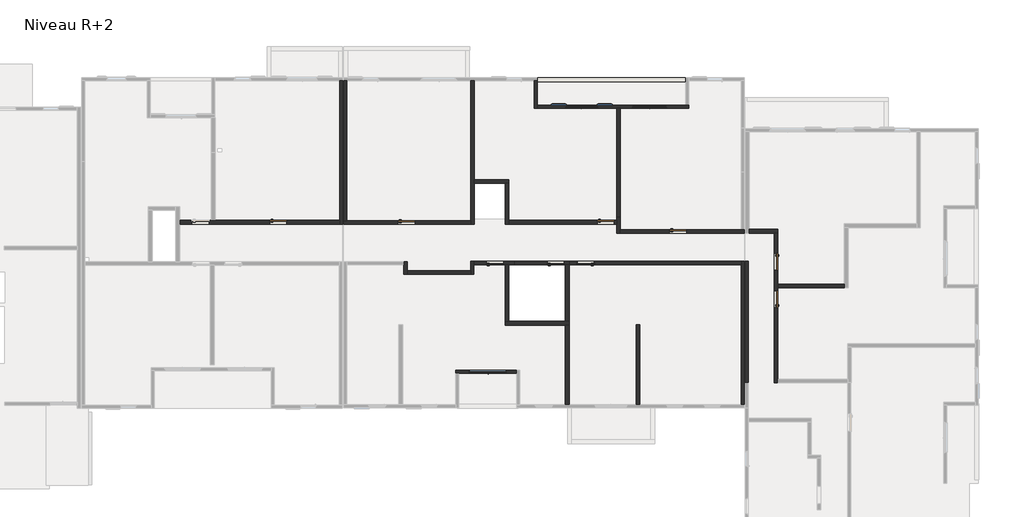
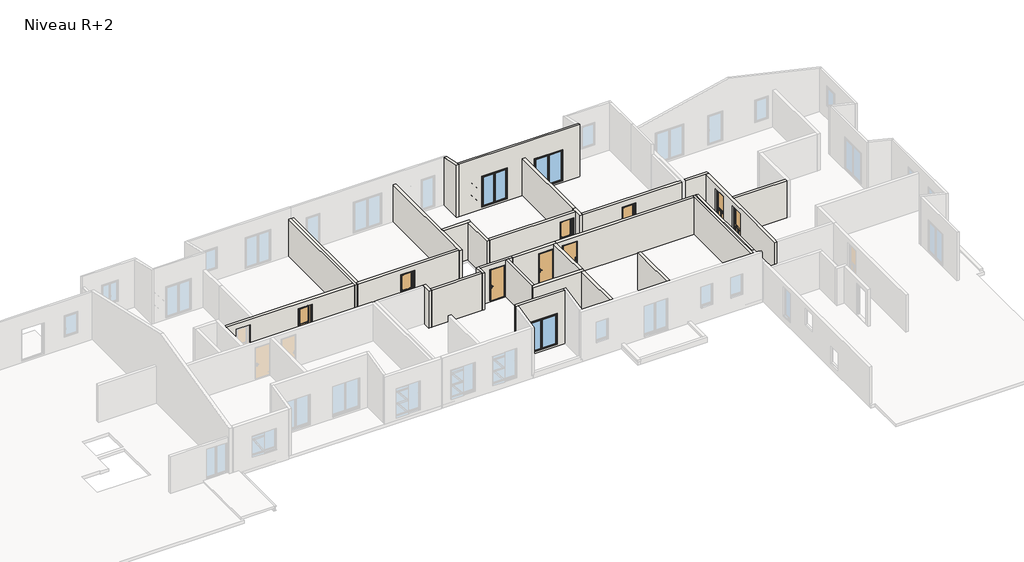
# One storey, part 5 of 7: 31 walls, 9 doors, 3 windows.
"""IFC4 building model written with IfcOpenShell, lengths in millimetres."""

from ifc_helpers import new_model, si_unit, frame, origin, place, context, project, spatial, polyline, outline, extrude, faceted_brep, transform, mapped, element, save
from components import door_88e42b76, door_d45fdbb8, door_280daffa, window_1_60m_x_2_15m_4a639791, window_1_80m_x_2_15m_7d3a4370, window_2_00m_x_2_15m_5decbdad

model = new_model("IFC4")

# Units and contexts
model_context = context("Model", 3, world=origin())
ifc_project = project(units=[si_unit("LENGTHUNIT", "METRE", prefix="MILLI")], contexts=[model_context])

# Site, building, storey
site = spatial("IfcSite", under=ifc_project)
building = spatial("IfcBuilding", under=site)
storey = spatial("IfcBuildingStorey", under=building, Name="Niveau R+2", Elevation=6120.0)

# Doors
placement = place(None, origin())
door_shape = door_88e42b76(model_context)
element("IfcDoor", 1, ObjectType="Entrée (avec angle d'ouverture) : PP Avec moulures (0.90 m x 2.15 m)", at=placement, inside=storey, context=model_context, shape_type="MappedRepresentation", body=[
    mapped(door_shape, transform((34385.1786351, 24372.4965623, 6120.0), x_axis=(1.0, 0.0, 0.0), y_axis=(0.0, 1.0, 0.0), z_axis=(0.0, 0.0, 1.0))),
])
element("IfcDoor", 2, ObjectType="Entrée (avec angle d'ouverture) : PP Avec moulures (0.90 m x 2.15 m)", at=placement, inside=storey, context=model_context, shape_type="MappedRepresentation", body=[
    mapped(door_shape, transform((51897.3928747, 24372.4952381, 6120.0), x_axis=(1.0, 0.0, 0.0), y_axis=(0.0, 1.0, 0.0), z_axis=(0.0, 0.0, 1.0))),
])
door_2_shape = door_d45fdbb8(model_context)
element("IfcDoor", 3, ObjectType="Entrée (avec angle d'ouverture) : PP Avec moulures (0.90 m x 2.15 m)", at=placement, inside=storey, context=model_context, shape_type="MappedRepresentation", body=[
    mapped(door_2_shape, transform((49225.0121044, 22187.4949823, 6120.0), x_axis=(1.0, 0.0, 0.0), y_axis=(0.0, 1.0, 0.0), z_axis=(0.0, 0.0, 1.0))),
])
element("IfcDoor", 4, ObjectType="Entrée (avec angle d'ouverture) : PP Avec moulures (0.90 m x 2.15 m)", at=placement, inside=storey, context=model_context, shape_type="MappedRepresentation", body=[
    mapped(door_2_shape, transform((60989.2327219, 20265.8620351, 6120.0), x_axis=(0.0, 1.0, 0.0), y_axis=(-1.0, 0.0, 0.0), z_axis=(0.0, 0.0, 1.0))),
])
element("IfcDoor", 5, ObjectType="Entrée (avec angle d'ouverture) : PP Avec moulures (0.90 m x 2.15 m)", at=placement, inside=storey, context=model_context, shape_type="MappedRepresentation", body=[
    mapped(door_2_shape, transform((45968.8671522, 22187.4951106, 6120.0), x_axis=(1.0, 0.0, 0.0), y_axis=(0.0, 1.0, 0.0), z_axis=(0.0, 0.0, 1.0))),
])
door_3_shape = door_280daffa(model_context)
element("IfcDoor", 6, ObjectType="Entrée (avec angle d'ouverture) : PP Avec moulures (0.90 m x 2.15 m)", at=placement, inside=storey, context=model_context, shape_type="MappedRepresentation", body=[
    mapped(door_3_shape, transform((41244.7127506, 24362.4952381, 6120.0), x_axis=(1.0, 0.0, 0.0), y_axis=(0.0, 1.0, 0.0), z_axis=(0.0, 0.0, 1.0))),
])
element("IfcDoor", 7, ObjectType="Entrée (avec angle d'ouverture) : PP Avec moulures (0.90 m x 2.15 m)", at=placement, inside=storey, context=model_context, shape_type="MappedRepresentation", body=[
    mapped(door_3_shape, transform((55757.3928747, 23877.4942338, 6120.0), x_axis=(1.0, 0.0, 0.0), y_axis=(0.0, 1.0, 0.0), z_axis=(0.0, 0.0, 1.0))),
])
element("IfcDoor", 8, ObjectType="Entrée (avec angle d'ouverture) : PP Avec moulures (0.90 m x 2.15 m)", at=placement, inside=storey, context=model_context, shape_type="MappedRepresentation", body=[
    mapped(door_3_shape, transform((60989.2327219, 22254.6274913, 6120.0), x_axis=(0.0, -1.0, 0.0), y_axis=(1.0, 0.0, 0.0), z_axis=(0.0, 0.0, 1.0))),
])
element("IfcDoor", 9, ObjectType="Entrée (avec angle d'ouverture) : PP Avec moulures (0.90 m x 2.15 m)", at=placement, inside=storey, context=model_context, shape_type="MappedRepresentation", body=[
    mapped(door_3_shape, transform((50805.0121044, 22187.4949823, 6120.0), x_axis=(-1.0, 0.0, 0.0), y_axis=(0.0, -1.0, 0.0), z_axis=(0.0, 0.0, 1.0))),
])

# Walls
element("IfcWall", 10, ObjectType="Ext. Voile BA 16 + Isolant 120", at=placement, inside=storey, context=model_context, shape_type="Brep", body=[
    faceted_brep([(48060.3941376, 31927.4960094, 9407.9189243), (48060.3941376, 31927.4960094, 6030.0), (48060.3941376, 30468.4145164, 6030.0), (48060.3941376, 30468.4145164, 9744.7744293), (48220.3941376, 31927.4960094, 6030.0), (48220.3941376, 31927.4960094, 9407.9189243), (48220.3941376, 30628.4145164, 9707.8355187), (48220.3941376, 30468.4145164, 9744.7744293), (48220.3941376, 30468.4145164, 6030.0), (48220.3941376, 30628.4145164, 6030.0), (48220.3941376, 31887.4960094, 6030.0), (48140.3941376, 31927.4960094, 6030.0)], [[[0, 1, 2, 3]], [[4, 5, 6, 7, 8, 9, 10]], [[2, 1, 11, 4, 10, 9, 8]], [[0, 3, 7, 6, 5]], [[0, 5, 4, 11, 1]], [[3, 2, 8, 7]]]),
])
element("IfcWall", 11, ObjectType="Ext. Voile BA 16 + Isolant 120", at=placement, inside=storey, context=model_context, shape_type="Brep", body=[
    faceted_brep([(48220.3941376, 30468.4145164, 6030.0), (52467.3928747, 30468.4145164, 6030.0), (52667.3928747, 30468.4145164, 6030.0), (56314.3903552, 30468.4145164, 6030.0), (56314.3903552, 30468.4145164, 9744.7744293), (48220.3941376, 30468.4145164, 9744.7744293), (51452.3928747, 30468.4145164, 6155.0), (49752.3928747, 30468.4145164, 6155.0), (49752.3928747, 30468.4145164, 8355.0), (51452.3928747, 30468.4145164, 8355.0), (55167.3928747, 30468.4145164, 6155.0), (53267.3928747, 30468.4145164, 6155.0), (53267.3928747, 30468.4145164, 8355.0), (55167.3928747, 30468.4145164, 8355.0), (48220.3941376, 30628.4145164, 6030.0), (48220.3941376, 30628.4145164, 9707.8355187), (56154.3903552, 30628.4145164, 9707.8355187), (56314.3903552, 30628.4145164, 9707.8355187), (56314.3903552, 30628.4145164, 6030.0), (56154.3903552, 30628.4145164, 6030.0), (51402.3928747, 30628.4145164, 6146.5916612), (51402.3928747, 30628.4145164, 8305.0), (49802.3928747, 30628.4145164, 8305.0), (49802.3928747, 30628.4145164, 6146.5916612), (53317.3928747, 30628.4145164, 8305.0), (53317.3928747, 30628.4145164, 6146.5916612), (55117.3928747, 30628.4145164, 6146.5916612), (55117.3928747, 30628.4145164, 8305.0), (51402.3928747, 30548.4145164, 6155.0), (51402.3928747, 30568.4145164, 6155.0), (51402.3928747, 30568.4145164, 8305.0), (49802.3928747, 30568.4145164, 8305.0), (49802.3928747, 30568.4145164, 6155.0), (49802.3928747, 30548.4145164, 6155.0), (49792.3928747, 30568.4145164, 6155.0), (49792.3928747, 30518.4145164, 6155.0), (49752.3928747, 30518.4145164, 6155.0), (51452.3928747, 30518.4145164, 6155.0), (51412.3928747, 30518.4145164, 6155.0), (51412.3928747, 30568.4145164, 6155.0), (51452.3928747, 30518.4145164, 8355.0), (49752.3928747, 30518.4145164, 8355.0), (49792.3928747, 30518.4145164, 8315.0), (51412.3928747, 30518.4145164, 8315.0), (51412.3928747, 30568.4145164, 8315.0), (49792.3928747, 30568.4145164, 8315.0), (53317.3928747, 30548.4145164, 6155.0), (53317.3928747, 30568.4145164, 8305.0), (53317.3928747, 30568.4145164, 6155.0), (55117.3928747, 30548.4145164, 6155.0), (55117.3928747, 30568.4145164, 6155.0), (55117.3928747, 30568.4145164, 8305.0), (53307.3928747, 30568.4145164, 6155.0), (53307.3928747, 30518.4145164, 6155.0), (53267.3928747, 30518.4145164, 6155.0), (55167.3928747, 30518.4145164, 6155.0), (55127.3928747, 30518.4145164, 6155.0), (55127.3928747, 30568.4145164, 6155.0), (53267.3928747, 30518.4145164, 8355.0), (53307.3928747, 30518.4145164, 8315.0), (55127.3928747, 30518.4145164, 8315.0), (55167.3928747, 30518.4145164, 8355.0), (53307.3928747, 30568.4145164, 8315.0), (55127.3928747, 30568.4145164, 8315.0)], [[[0, 1, 2, 3, 4, 5], [6, 7, 8, 9], [10, 11, 12, 13]], [[14, 15, 16, 17, 18, 19], [20, 21, 22, 23], [24, 25, 26, 27]], [[3, 2, 1, 0, 14, 19, 18]], [[4, 3, 18, 17]], [[28, 29, 30, 21, 20]], [[23, 22, 31, 32, 33]], [[28, 20, 23, 33]], [[21, 30, 31, 22]], [[33, 32, 34, 35, 36, 7, 6, 37, 38, 39, 29, 28]], [[6, 9, 40, 37]], [[37, 40, 41, 36, 35, 42, 43, 38]], [[38, 43, 44, 39]], [[39, 44, 45, 34, 32, 31, 30, 29]], [[9, 8, 41, 40]], [[42, 45, 44, 43]], [[41, 8, 7, 36]], [[35, 34, 45, 42]], [[46, 25, 24, 47, 48]], [[26, 49, 50, 51, 27]], [[46, 49, 26, 25]], [[24, 27, 51, 47]], [[49, 46, 48, 52, 53, 54, 11, 10, 55, 56, 57, 50]], [[11, 54, 58, 12]], [[54, 53, 59, 60, 56, 55, 61, 58]], [[53, 52, 62, 59]], [[52, 48, 47, 51, 50, 57, 63, 62]], [[12, 58, 61, 13]], [[60, 59, 62, 63]], [[61, 55, 10, 13]], [[56, 60, 63, 57]], [[5, 4, 17, 16, 15]], [[0, 5, 15, 14]]]),
])
element("IfcWall", 12, ObjectType="Ext. Voile BA 16 + Isolant 120", at=placement, inside=storey, context=model_context, shape_type="Brep", body=[
    faceted_brep([(47132.2384282, 16448.2809457, 6030.0), (43855.5620379, 16448.2809457, 6030.0), (43855.5620379, 16448.2809457, 9830.5096694), (47132.2384282, 16448.2809457, 9830.5096694), (44573.900233, 16448.2809457, 8305.0), (44573.900233, 16448.2809457, 6146.5916612), (46573.900233, 16448.2809457, 6146.5916612), (46573.900233, 16448.2809457, 8305.0), (47132.2384282, 16288.2809457, 6030.0), (47132.2384282, 16288.2809457, 9793.5707588), (44015.5620379, 16288.2809457, 9793.5707588), (43855.5620379, 16288.2809457, 9793.5707588), (43855.5620379, 16288.2809457, 6030.0), (44015.5620379, 16288.2809457, 6030.0), (46623.900233, 16288.2809457, 6155.0), (44523.900233, 16288.2809457, 6155.0), (44523.900233, 16288.2809457, 8355.0), (46623.900233, 16288.2809457, 8355.0), (44573.900233, 16368.2809457, 6155.0), (44573.900233, 16388.2809457, 8305.0), (44573.900233, 16388.2809457, 6155.0), (46573.900233, 16368.2809457, 6155.0), (46573.900233, 16388.2809457, 6155.0), (46573.900233, 16388.2809457, 8305.0), (44563.900233, 16388.2809457, 6155.0), (44563.900233, 16338.2809457, 6155.0), (44523.900233, 16338.2809457, 6155.0), (46623.900233, 16338.2809457, 6155.0), (46583.900233, 16338.2809457, 6155.0), (46583.900233, 16388.2809457, 6155.0), (44523.900233, 16338.2809457, 8355.0), (44563.900233, 16338.2809457, 8315.0), (46583.900233, 16338.2809457, 8315.0), (46623.900233, 16338.2809457, 8355.0), (44563.900233, 16388.2809457, 8315.0), (46583.900233, 16388.2809457, 8315.0)], [[[0, 1, 2, 3], [4, 5, 6, 7]], [[8, 9, 10, 11, 12, 13], [14, 15, 16, 17]], [[1, 0, 8, 13, 12]], [[2, 1, 12, 11]], [[0, 3, 9, 8]], [[18, 5, 4, 19, 20]], [[6, 21, 22, 23, 7]], [[18, 21, 6, 5]], [[4, 7, 23, 19]], [[21, 18, 20, 24, 25, 26, 15, 14, 27, 28, 29, 22]], [[15, 26, 30, 16]], [[26, 25, 31, 32, 28, 27, 33, 30]], [[25, 24, 34, 31]], [[24, 20, 19, 23, 22, 29, 35, 34]], [[16, 30, 33, 17]], [[32, 31, 34, 35]], [[33, 27, 14, 17]], [[28, 32, 35, 29]], [[3, 2, 11, 10, 9]]]),
])
element("IfcWall", 13, ObjectType="Ext. Voile BA 20", at=placement, inside=storey, context=model_context, shape_type="Brep", body=[
    faceted_brep([(48140.3941376, 31887.4960094, 5830.0), (56234.3903552, 31887.4960094, 5830.0), (56234.3903552, 31887.4960094, 6030.0), (56154.3903552, 31887.4960094, 6030.0), (56154.3903552, 31887.4960094, 6180.0), (48220.3941376, 31887.4960094, 6180.0), (48220.3941376, 31887.4960094, 6030.0), (48140.3941376, 31887.4960094, 6030.0), (48140.3941376, 32087.4960094, 5830.0), (48140.3941376, 32087.4960094, 6030.0), (48220.3941376, 32087.4960094, 6030.0), (48220.3941376, 32087.4960094, 6180.0), (56154.3903552, 32087.4960094, 6180.0), (56154.3903552, 32087.4960094, 6030.0), (56234.3903552, 32087.4960094, 6030.0), (56234.3903552, 32087.4960094, 5830.0), (48140.3941376, 31927.4960094, 5830.0), (56234.3903552, 31927.496363, 5830.0), (56234.3903552, 31927.496363, 6030.0), (48140.3941376, 31927.4960094, 6030.0), (48220.3941376, 31927.4960094, 6030.0)], [[[0, 1, 2, 3, 4, 5, 6, 7]], [[8, 9, 10, 11, 12, 13, 14, 15]], [[1, 0, 16, 8, 15, 17]], [[5, 4, 12, 11]], [[2, 1, 17, 15, 14, 18]], [[13, 3, 2, 18, 14]], [[4, 3, 13, 12]], [[0, 7, 19, 9, 8, 16]], [[6, 20, 10, 9, 19, 7]], [[6, 5, 11, 10, 20]]]),
])
element("IfcWall", 14, ObjectType="Voile BA 16", at=placement, inside=storey, context=model_context, shape_type="Brep", body=[
    faceted_brep([(37669.4832806, 31947.4972516, 8650.0), (37669.4832806, 31947.4972516, 6030.0), (37669.4832806, 24472.4965623, 6030.0), (37669.4832806, 24272.4965623, 6030.0), (37669.4832806, 24272.4965623, 8650.0), (37669.4832806, 24472.4965623, 8650.0), (37829.4832806, 31947.4972516, 6030.0), (37829.4832806, 31947.4972516, 8650.0), (37829.4832806, 24272.4965623, 8650.0), (37829.4832806, 24272.4965623, 6030.0)], [[[0, 1, 2, 3, 4, 5]], [[6, 7, 8, 9]], [[3, 2, 1, 6, 9]], [[0, 5, 4, 8, 7]], [[4, 3, 9, 8]], [[0, 7, 6, 1]]]),
])
element("IfcWall", 15, ObjectType="Voile BA 16", at=placement, inside=storey, context=model_context, shape_type="SweptSolid", body=[
    extrude(outline(polyline([(59512.9059955, 22280.4427829), (59512.9059955, 15804.7371469), (59352.9059955, 15804.7371469), (59352.9059955, 22280.4427829), (59512.9059955, 22280.4427829)])), frame((0.0, 0.0, 6030.0), z_axis=(0.0, 0.0, 1.0), x_axis=(1.0, 0.0, 0.0)), (0.0, 0.0, 1.0), 2620.0),
])
element("IfcWall", 16, ObjectType="Voile BA 16", at=placement, inside=storey, context=model_context, shape_type="Brep", body=[
    faceted_brep([(59132.9632272, 22277.4949823, 6030.0), (59132.9632272, 22097.4949823, 6030.0), (59132.9632272, 14617.838074, 6030.0), (59132.9632272, 14617.838074, 8650.0), (59132.9632272, 22097.4949823, 8650.0), (59132.9632272, 22277.4949823, 8650.0), (59292.9632272, 22277.4949823, 6030.0), (59292.9632272, 22277.4949823, 8650.0), (59292.9632272, 14617.838074, 8650.0), (59292.9632272, 14617.838074, 6030.0)], [[[0, 1, 2, 3, 4, 5]], [[6, 7, 8, 9]], [[2, 1, 0, 6, 9]], [[5, 4, 3, 8, 7]], [[3, 2, 9, 8]], [[0, 5, 7, 6]]]),
])
element("IfcWall", 17, ObjectType="Voile BA 16", at=placement, inside=storey, context=model_context, shape_type="Brep", body=[
    faceted_brep([(37868.7313075, 31927.4960094, 8650.0), (37868.7313075, 31927.4960094, 6030.0), (37868.7313075, 24452.4952381, 6030.0), (37868.7313075, 24452.4952381, 8650.0), (38028.7313075, 31927.4960094, 6030.0), (38028.7313075, 31927.4960094, 8650.0), (38028.7313075, 24452.4952381, 8650.0), (38028.7313075, 24452.4952381, 6030.0), (37888.6832806, 31927.4960094, 6030.0)], [[[0, 1, 2, 3]], [[4, 5, 6, 7]], [[2, 1, 8, 4, 7]], [[0, 3, 6, 5]], [[3, 2, 7, 6]], [[0, 5, 4, 8, 1]]]),
])
element("IfcWall", 18, ObjectType="Voile BA 18", at=placement, inside=storey, context=model_context, shape_type="Brep", body=[
    faceted_brep([(46985.0121044, 22097.4949823, 6030.0), (49725.0121044, 22097.4949823, 6030.0), (49925.0121044, 22097.4949823, 6030.0), (49925.0121044, 22097.4949823, 8650.0), (49725.0121044, 22097.4949823, 8650.0), (46985.0121044, 22097.4949823, 8650.0), (48755.0121044, 22097.4949823, 6120.0), (48725.0121044, 22097.4949823, 6120.0), (48725.0121044, 22097.4949823, 8310.0), (49705.0121044, 22097.4949823, 8310.0), (49705.0121044, 22097.4949823, 6120.0), (49675.0121044, 22097.4949823, 6120.0), (49925.0121044, 22277.4949823, 6030.0), (46985.0121044, 22277.4949823, 6030.0), (46985.0121044, 22277.4949823, 8650.0), (49925.0121044, 22277.4949823, 8650.0), (49675.0121044, 22277.4949823, 8280.0), (48755.0121044, 22277.4949823, 8280.0), (48755.0121044, 22277.4949823, 6120.0), (49675.0121044, 22277.4949823, 6120.0), (49675.0121044, 22197.4949823, 8280.0), (48755.0121044, 22197.4949823, 8280.0), (48755.0121044, 22197.4949823, 6120.0), (48740.0121044, 22197.4949823, 6120.0), (48740.0121044, 22154.4949823, 6120.0), (48725.0121044, 22154.4949823, 6120.0), (49705.0121044, 22154.4949823, 6120.0), (49690.0121044, 22154.4949823, 6120.0), (49690.0121044, 22197.4949823, 6120.0), (49675.0121044, 22197.4949823, 6120.0), (48740.0121044, 22154.4949823, 8295.0), (49690.0121044, 22154.4949823, 8295.0), (49705.0121044, 22154.4949823, 8310.0), (48725.0121044, 22154.4949823, 8310.0), (48740.0121044, 22197.4949823, 8295.0), (49690.0121044, 22197.4949823, 8295.0)], [[[0, 1, 2, 3, 4, 5], [6, 7, 8, 9, 10, 11]], [[12, 13, 14, 15], [16, 17, 18, 19]], [[2, 1, 0, 13, 12]], [[5, 4, 3, 15, 14]], [[0, 5, 14, 13]], [[3, 2, 12, 15]], [[20, 21, 17, 16]], [[22, 23, 24, 25, 7, 6, 11, 10, 26, 27, 28, 29, 19, 18]], [[29, 20, 16, 19]], [[21, 22, 18, 17]], [[25, 24, 30, 31, 27, 26, 32, 33]], [[7, 25, 33, 8]], [[33, 32, 9, 8]], [[26, 10, 9, 32]], [[24, 23, 34, 30]], [[21, 20, 29, 28, 35, 34, 23, 22]], [[31, 30, 34, 35]], [[28, 27, 31, 35]]]),
])
element("IfcWall", 19, ObjectType="Voile BA 18 + 6 + 1", at=placement, inside=storey, context=model_context, shape_type="Brep", body=[
    faceted_brep([(37868.7313075, 24272.4952381, 6030.0), (44657.3927707, 24272.4952381, 6030.0), (44657.3927707, 24272.4952381, 8650.0), (37868.7313075, 24272.4952381, 8650.0), (40774.7127506, 24272.4952381, 8280.0), (41694.7127506, 24272.4952381, 8280.0), (41694.7127506, 24272.4952381, 6120.0), (40774.7127506, 24272.4952381, 6120.0), (44657.3927707, 24452.4952381, 6030.0), (38028.7313075, 24452.4952381, 6030.0), (37868.7313075, 24452.4952381, 6030.0), (37868.7313075, 24452.4952381, 8650.0), (38028.7313075, 24452.4952381, 8650.0), (44657.3927707, 24452.4952381, 8650.0), (41694.7127506, 24452.4952381, 6120.0), (41724.7127506, 24452.4952381, 6120.0), (41724.7127506, 24452.4952381, 8310.0), (40744.7127506, 24452.4952381, 8310.0), (40744.7127506, 24452.4952381, 6120.0), (40774.7127506, 24452.4952381, 6120.0), (40774.7127506, 24352.4952381, 8280.0), (41694.7127506, 24352.4952381, 8280.0), (41694.7127506, 24352.4952381, 6120.0), (41709.7127506, 24352.4952381, 6120.0), (41709.7127506, 24395.4952381, 6120.0), (41724.7127506, 24395.4952381, 6120.0), (40744.7127506, 24395.4952381, 6120.0), (40759.7127506, 24395.4952381, 6120.0), (40759.7127506, 24352.4952381, 6120.0), (40774.7127506, 24352.4952381, 6120.0), (41709.7127506, 24395.4952381, 8295.0), (40759.7127506, 24395.4952381, 8295.0), (40744.7127506, 24395.4952381, 8310.0), (41724.7127506, 24395.4952381, 8310.0), (40759.7127506, 24352.4952381, 8295.0), (41709.7127506, 24352.4952381, 8295.0)], [[[0, 1, 2, 3], [4, 5, 6, 7]], [[8, 9, 10, 11, 12, 13], [14, 15, 16, 17, 18, 19]], [[1, 0, 10, 9, 8]], [[3, 2, 13, 12, 11]], [[2, 1, 8, 13]], [[0, 3, 11, 10]], [[20, 21, 5, 4]], [[22, 23, 24, 25, 15, 14, 19, 18, 26, 27, 28, 29, 7, 6]], [[21, 22, 6, 5]], [[29, 20, 4, 7]], [[25, 24, 30, 31, 27, 26, 32, 33]], [[26, 18, 17, 32]], [[33, 32, 17, 16]], [[15, 25, 33, 16]], [[28, 27, 31, 34]], [[21, 20, 29, 28, 34, 35, 23, 22]], [[31, 30, 35, 34]], [[24, 23, 35, 30]]]),
])
element("IfcWall", 20, ObjectType="Voile BA 18 + 6 + 1", at=placement, inside=storey, context=model_context, shape_type="Brep", body=[
    faceted_brep([(52667.3928747, 23787.4942338, 6030.0), (59292.9632272, 23787.4942338, 6030.0), (59292.9632272, 23787.4942338, 8650.0), (52667.3928747, 23787.4942338, 8650.0), (55287.3928747, 23787.4942338, 8280.0), (56207.3928747, 23787.4942338, 8280.0), (56207.3928747, 23787.4942338, 6120.0), (55287.3928747, 23787.4942338, 6120.0), (59292.9632272, 23967.4942338, 6030.0), (59132.9632272, 23967.4942338, 6030.0), (52667.3928747, 23967.4942338, 6030.0), (52667.3928747, 23967.4942338, 8650.0), (59132.9632272, 23967.4942338, 8650.0), (59292.9632272, 23967.4942338, 8650.0), (56207.3928747, 23967.4942338, 6120.0), (56237.3928747, 23967.4942338, 6120.0), (56237.3928747, 23967.4942338, 8310.0), (55257.3928747, 23967.4942338, 8310.0), (55257.3928747, 23967.4942338, 6120.0), (55287.3928747, 23967.4942338, 6120.0), (55287.3928747, 23867.4942338, 8280.0), (56207.3928747, 23867.4942338, 8280.0), (56207.3928747, 23867.4942338, 6120.0), (56222.3928747, 23867.4942338, 6120.0), (56222.3928747, 23910.4942338, 6120.0), (56237.3928747, 23910.4942338, 6120.0), (55257.3928747, 23910.4942338, 6120.0), (55272.3928747, 23910.4942338, 6120.0), (55272.3928747, 23867.4942338, 6120.0), (55287.3928747, 23867.4942338, 6120.0), (56222.3928747, 23910.4942338, 8295.0), (55272.3928747, 23910.4942338, 8295.0), (55257.3928747, 23910.4942338, 8310.0), (56237.3928747, 23910.4942338, 8310.0), (55272.3928747, 23867.4942338, 8295.0), (56222.3928747, 23867.4942338, 8295.0)], [[[0, 1, 2, 3], [4, 5, 6, 7]], [[8, 9, 10, 11, 12, 13], [14, 15, 16, 17, 18, 19]], [[1, 0, 10, 9, 8]], [[3, 2, 13, 12, 11]], [[0, 3, 11, 10]], [[2, 1, 8, 13]], [[20, 21, 5, 4]], [[22, 23, 24, 25, 15, 14, 19, 18, 26, 27, 28, 29, 7, 6]], [[21, 22, 6, 5]], [[29, 20, 4, 7]], [[25, 24, 30, 31, 27, 26, 32, 33]], [[26, 18, 17, 32]], [[33, 32, 17, 16]], [[15, 25, 33, 16]], [[28, 27, 31, 34]], [[21, 20, 29, 28, 34, 35, 23, 22]], [[31, 30, 35, 34]], [[24, 23, 35, 30]]]),
])
element("IfcWall", 21, ObjectType="Voile BA 18 + 6 + 1", at=placement, inside=storey, context=model_context, shape_type="Brep", body=[
    faceted_brep([(60899.2327219, 23787.4942629, 6030.0), (60899.2327219, 15804.7366595, 6030.0), (60899.2327219, 15804.7366595, 8650.0), (60899.2327219, 23787.4942629, 8650.0), (60899.2327219, 22724.6274913, 8280.0), (60899.2327219, 21804.6274913, 8280.0), (60899.2327219, 21804.6274913, 6120.0), (60899.2327219, 22724.6274913, 6120.0), (60899.2327219, 20715.8620351, 8280.0), (60899.2327219, 19795.8620351, 8280.0), (60899.2327219, 19795.8620351, 6120.0), (60899.2327219, 20715.8620351, 6120.0), (61079.2327219, 15804.7366595, 6030.0), (61079.2327219, 15984.7366595, 6030.0), (61079.2327219, 20864.6274913, 6030.0), (61079.2327219, 21064.6274913, 6030.0), (61079.2327219, 23787.4942629, 6030.0), (61079.2327219, 23787.4942629, 8650.0), (61079.2327219, 21064.6274913, 8650.0), (61079.2327219, 20864.6274913, 8650.0), (61079.2327219, 15984.7366595, 8650.0), (61079.2327219, 15804.7366595, 8650.0), (61079.2327219, 21804.6274913, 6120.0), (61079.2327219, 21774.6274913, 6120.0), (61079.2327219, 21774.6274913, 8310.0), (61079.2327219, 22754.6274913, 8310.0), (61079.2327219, 22754.6274913, 6120.0), (61079.2327219, 22724.6274913, 6120.0), (61079.2327219, 19795.8620351, 6120.0), (61079.2327219, 19765.8620351, 6120.0), (61079.2327219, 19765.8620351, 8310.0), (61079.2327219, 20745.8620351, 8310.0), (61079.2327219, 20745.8620351, 6120.0), (61079.2327219, 20715.8620351, 6120.0), (60979.2327219, 22724.6274913, 8280.0), (60979.2327219, 21804.6274913, 8280.0), (60979.2327219, 21804.6274913, 6120.0), (60979.2327219, 21789.6274913, 6120.0), (61022.2327219, 21789.6274913, 6120.0), (61022.2327219, 21774.6274913, 6120.0), (61022.2327219, 22754.6274913, 6120.0), (61022.2327219, 22739.6274913, 6120.0), (60979.2327219, 22739.6274913, 6120.0), (60979.2327219, 22724.6274913, 6120.0), (61022.2327219, 21789.6274913, 8295.0), (61022.2327219, 22739.6274913, 8295.0), (61022.2327219, 22754.6274913, 8310.0), (61022.2327219, 21774.6274913, 8310.0), (60979.2327219, 22739.6274913, 8295.0), (60979.2327219, 21789.6274913, 8295.0), (60979.2327219, 20715.8620351, 8280.0), (60979.2327219, 19795.8620351, 8280.0), (60979.2327219, 20730.8620351, 6120.0), (60979.2327219, 20715.8620351, 6120.0), (60979.2327219, 19795.8620351, 6120.0), (60979.2327219, 19780.8620351, 6120.0), (61022.2327219, 19780.8620351, 6120.0), (61022.2327219, 19765.8620351, 6120.0), (61022.2327219, 20745.8620351, 6120.0), (61022.2327219, 20730.8620351, 6120.0), (61022.2327219, 20745.8620351, 8310.0), (61022.2327219, 19765.8620351, 8310.0), (61022.2327219, 19780.8620351, 8295.0), (61022.2327219, 20730.8620351, 8295.0), (60979.2327219, 19780.8620351, 8295.0), (60979.2327219, 20730.8620351, 8295.0)], [[[0, 1, 2, 3], [4, 5, 6, 7], [8, 9, 10, 11]], [[12, 13, 14, 15, 16, 17, 18, 19, 20, 21], [22, 23, 24, 25, 26, 27], [28, 29, 30, 31, 32, 33]], [[1, 0, 16, 15, 14, 13, 12]], [[3, 2, 21, 20, 19, 18, 17]], [[34, 35, 5, 4]], [[36, 37, 38, 39, 23, 22, 27, 26, 40, 41, 42, 43, 7, 6]], [[35, 36, 6, 5]], [[43, 34, 4, 7]], [[39, 38, 44, 45, 41, 40, 46, 47]], [[40, 26, 25, 46]], [[47, 46, 25, 24]], [[23, 39, 47, 24]], [[42, 41, 45, 48]], [[35, 34, 43, 42, 48, 49, 37, 36]], [[45, 44, 49, 48]], [[38, 37, 49, 44]], [[50, 51, 9, 8]], [[52, 53, 11, 10, 54, 55, 56, 57, 29, 28, 33, 32, 58, 59]], [[53, 50, 8, 11]], [[51, 54, 10, 9]], [[59, 58, 60, 61, 57, 56, 62, 63]], [[29, 57, 61, 30]], [[61, 60, 31, 30]], [[58, 32, 31, 60]], [[56, 55, 64, 62]], [[51, 50, 53, 52, 65, 64, 55, 54]], [[63, 62, 64, 65]], [[52, 59, 63, 65]], [[2, 1, 12, 21]], [[16, 0, 3, 17]]]),
])
element("IfcWall", 22, ObjectType="Voile BA 18 + 6 + 1", at=placement, inside=storey, context=model_context, shape_type="Brep", body=[
    faceted_brep([(49925.0121044, 22097.4949823, 6030.0), (59132.9632272, 22097.4949823, 6030.0), (59132.9632272, 22097.4949823, 8650.0), (49925.0121044, 22097.4949823, 8650.0), (50355.0121044, 22097.4949823, 6120.0), (50325.0121044, 22097.4949823, 6120.0), (50325.0121044, 22097.4949823, 8310.0), (51305.0121044, 22097.4949823, 8310.0), (51305.0121044, 22097.4949823, 6120.0), (51275.0121044, 22097.4949823, 6120.0), (59132.9632272, 22277.4949823, 6030.0), (49925.0121044, 22277.4949823, 6030.0), (49925.0121044, 22277.4949823, 8650.0), (59132.9632272, 22277.4949823, 8650.0), (51275.0121044, 22277.4949823, 8280.0), (50355.0121044, 22277.4949823, 8280.0), (50355.0121044, 22277.4949823, 6120.0), (51275.0121044, 22277.4949823, 6120.0), (51275.0121044, 22197.4949823, 8280.0), (50355.0121044, 22197.4949823, 8280.0), (50355.0121044, 22197.4949823, 6120.0), (50340.0121044, 22197.4949823, 6120.0), (50340.0121044, 22154.4949823, 6120.0), (50325.0121044, 22154.4949823, 6120.0), (51305.0121044, 22154.4949823, 6120.0), (51290.0121044, 22154.4949823, 6120.0), (51290.0121044, 22197.4949823, 6120.0), (51275.0121044, 22197.4949823, 6120.0), (50340.0121044, 22154.4949823, 8295.0), (51290.0121044, 22154.4949823, 8295.0), (51305.0121044, 22154.4949823, 8310.0), (50325.0121044, 22154.4949823, 8310.0), (51290.0121044, 22197.4949823, 8295.0), (50340.0121044, 22197.4949823, 8295.0)], [[[0, 1, 2, 3], [4, 5, 6, 7, 8, 9]], [[10, 11, 12, 13], [14, 15, 16, 17]], [[1, 0, 11, 10]], [[3, 2, 13, 12]], [[2, 1, 10, 13]], [[18, 19, 15, 14]], [[20, 21, 22, 23, 5, 4, 9, 8, 24, 25, 26, 27, 17, 16]], [[19, 20, 16, 15]], [[27, 18, 14, 17]], [[23, 22, 28, 29, 25, 24, 30, 31]], [[24, 8, 7, 30]], [[31, 30, 7, 6]], [[5, 23, 31, 6]], [[26, 25, 29, 32]], [[19, 18, 27, 26, 32, 33, 21, 20]], [[29, 28, 33, 32]], [[22, 21, 33, 28]], [[0, 3, 12, 11]]]),
])
element("IfcWall", 23, ObjectType="Voile BA 18 + 6 + 1", at=placement, inside=storey, context=model_context, shape_type="Brep", body=[
    faceted_brep([(46985.0121044, 22277.4951106, 6030.0), (44838.8737638, 22277.4951106, 6030.0), (44838.8737638, 22277.4951106, 8650.0), (46985.0121044, 22277.4951106, 8650.0), (46418.8671522, 22277.4951106, 8280.0), (45498.8671522, 22277.4951106, 8280.0), (45498.8671522, 22277.4951106, 6120.0), (46418.8671522, 22277.4951106, 6120.0), (44838.8737638, 22097.4951106, 6030.0), (46518.8671522, 22097.4951106, 6030.0), (46698.8671522, 22097.4951106, 6030.0), (46985.0121044, 22097.4951106, 6030.0), (46985.0121044, 22097.4951106, 8650.0), (46698.8671522, 22097.4951106, 8650.0), (46518.8671522, 22097.4951106, 8650.0), (44838.8737638, 22097.4951106, 8650.0), (45498.8671522, 22097.4951106, 6120.0), (45468.8671522, 22097.4951106, 6120.0), (45468.8671522, 22097.4951106, 8310.0), (46448.8671522, 22097.4951106, 8310.0), (46448.8671522, 22097.4951106, 6120.0), (46418.8671522, 22097.4951106, 6120.0), (46418.8671522, 22197.4951106, 8280.0), (45498.8671522, 22197.4951106, 8280.0), (45498.8671522, 22197.4951106, 6120.0), (45483.8671522, 22197.4951106, 6120.0), (45483.8671522, 22154.4951106, 6120.0), (45468.8671522, 22154.4951106, 6120.0), (46448.8671522, 22154.4951106, 6120.0), (46433.8671522, 22154.4951106, 6120.0), (46433.8671522, 22197.4951106, 6120.0), (46418.8671522, 22197.4951106, 6120.0), (45483.8671522, 22154.4951106, 8295.0), (46433.8671522, 22154.4951106, 8295.0), (46448.8671522, 22154.4951106, 8310.0), (45468.8671522, 22154.4951106, 8310.0), (45483.8671522, 22197.4951106, 8295.0), (46433.8671522, 22197.4951106, 8295.0)], [[[0, 1, 2, 3], [4, 5, 6, 7]], [[8, 9, 10, 11, 12, 13, 14, 15], [16, 17, 18, 19, 20, 21]], [[1, 0, 11, 10, 9, 8]], [[3, 2, 15, 14, 13, 12]], [[0, 3, 12, 11]], [[2, 1, 8, 15]], [[22, 23, 5, 4]], [[24, 25, 26, 27, 17, 16, 21, 20, 28, 29, 30, 31, 7, 6]], [[31, 22, 4, 7]], [[23, 24, 6, 5]], [[27, 26, 32, 33, 29, 28, 34, 35]], [[17, 27, 35, 18]], [[35, 34, 19, 18]], [[28, 20, 19, 34]], [[26, 25, 36, 32]], [[23, 22, 31, 30, 37, 36, 25, 24]], [[33, 32, 36, 37]], [[30, 29, 33, 37]]]),
])
element("IfcWall", 24, ObjectType="Voile BA 18 + 6 + 1", at=placement, inside=storey, context=model_context, shape_type="Brep", body=[
    faceted_brep([(44658.8737638, 22277.4951106, 6030.0), (44658.8737638, 21772.4952075, 6030.0), (44658.8737638, 21592.4952075, 6030.0), (44658.8737638, 21592.4952075, 8650.0), (44658.8737638, 21772.4952075, 8650.0), (44658.8737638, 22277.4951106, 8650.0), (44838.8737638, 22277.4951106, 6030.0), (44838.8737638, 22277.4951106, 8650.0), (44838.8737638, 22097.4951106, 8650.0), (44838.8737638, 21592.4952075, 8650.0), (44838.8737638, 21592.4952075, 6030.0), (44838.8737638, 22097.4951106, 6030.0)], [[[0, 1, 2, 3, 4, 5]], [[6, 7, 8, 9, 10, 11]], [[2, 1, 0, 6, 11, 10]], [[5, 4, 3, 9, 8, 7]], [[3, 2, 10, 9]], [[0, 5, 7, 6]]]),
])
element("IfcWall", 25, ObjectType="Voile BA 18 + 6 + 1", at=placement, inside=storey, context=model_context, shape_type="SweptSolid", body=[
    extrude(outline(polyline([(41278.8737638, 21772.4952075), (44658.8737638, 21772.4952075), (44658.8737638, 21592.4952075), (41278.8737638, 21592.4952075), (41278.8737638, 21772.4952075)])), frame((0.0, 0.0, 6030.0), z_axis=(0.0, 0.0, 1.0), x_axis=(1.0, 0.0, 0.0)), (0.0, 0.0, 1.0), 2620.0),
])
element("IfcWall", 26, ObjectType="Voile BA 18 + Isolant 4", at=placement, inside=storey, context=model_context, shape_type="SweptSolid", body=[
    extrude(outline(polyline([(46698.8671522, 22097.4951106), (46698.8671522, 19072.9017524), (46518.8671522, 19072.9017524), (46518.8671522, 22097.4951106), (46698.8671522, 22097.4951106)])), frame((0.0, 0.0, 6030.0), z_axis=(0.0, 0.0, 1.0), x_axis=(1.0, 0.0, 0.0)), (0.0, 0.0, 1.0), 2620.0),
])
element("IfcWall", 27, ObjectType="Voile BA 20", at=placement, inside=storey, context=model_context, shape_type="Brep", body=[
    faceted_brep([(44657.3927707, 31927.4960094, 6030.0), (44657.3927707, 24452.4952381, 6030.0), (44657.3927707, 24272.4952381, 6030.0), (44657.3927707, 24267.4960094, 6030.0), (44657.3927707, 24267.4960094, 8650.0), (44657.3927707, 24272.4952381, 8650.0), (44657.3927707, 24452.4952381, 8650.0), (44657.3927707, 31927.4960094, 8650.0), (44857.3927707, 31927.4960094, 6030.0), (44857.3927707, 31927.4960094, 8650.0), (44857.3927707, 26657.7598122, 8650.0), (44857.3927707, 26457.7598122, 8650.0), (44857.3927707, 24267.4960094, 8650.0), (44857.3927707, 24267.4960094, 6030.0), (44857.3927707, 26457.7598122, 6030.0), (44857.3927707, 26657.7598122, 6030.0)], [[[0, 1, 2, 3, 4, 5, 6, 7]], [[8, 9, 10, 11, 12, 13, 14, 15]], [[3, 2, 1, 0, 8, 15, 14, 13]], [[4, 3, 13, 12]], [[7, 6, 5, 4, 12, 11, 10, 9]], [[0, 7, 9, 8]]]),
])
element("IfcWall", 28, ObjectType="Voile BA 20", at=placement, inside=storey, context=model_context, shape_type="SweptSolid", body=[
    extrude(outline(polyline([(52467.3928747, 24628.4145164), (52467.3928747, 30468.4145164), (52667.3928747, 30468.4145164), (52667.3928747, 24628.4145164), (52467.3928747, 24628.4145164)])), frame((0.0, 0.0, 6030.0), z_axis=(0.0, 0.0, 1.0), x_axis=(1.0, 0.0, 0.0)), (0.0, 0.0, 1.0), 2620.0),
])
element("IfcWall", 29, ObjectType="Voile BA 20", at=placement, inside=storey, context=model_context, shape_type="SweptSolid", body=[
    extrude(outline(polyline([(49725.0121044, 14617.838074), (49725.0121044, 18872.9017524), (49925.0121044, 18872.9017524), (49925.0121044, 14617.838074), (49725.0121044, 14617.838074)])), frame((0.0, 0.0, 6030.0), z_axis=(0.0, 0.0, 1.0), x_axis=(1.0, 0.0, 0.0)), (0.0, 0.0, 1.0), 2620.0),
])
element("IfcWall", 30, ObjectType="Voile BA 20", at=placement, inside=storey, context=model_context, shape_type="SweptSolid", body=[
    extrude(outline(polyline([(53510.2357198, 14617.838074), (53510.2357198, 18892.838074), (53710.2357198, 18892.838074), (53710.2357198, 14617.838074), (53510.2357198, 14617.838074)])), frame((0.0, 0.0, 6030.0), z_axis=(0.0, 0.0, 1.0), x_axis=(1.0, 0.0, 0.0)), (0.0, 0.0, 1.0), 2620.0),
])
element("IfcWall", 31, ObjectType="Voile BA 20", at=placement, inside=storey, context=model_context, shape_type="SweptSolid", body=[
    extrude(outline(polyline([(61079.2327219, 21064.6274913), (64648.1802895, 21064.6274913), (64648.1802895, 20864.6274913), (61079.2327219, 20864.6274913), (61079.2327219, 21064.6274913)])), frame((0.0, 0.0, 6030.0), z_axis=(0.0, 0.0, 1.0), x_axis=(1.0, 0.0, 0.0)), (0.0, 0.0, 1.0), 2620.0),
])
element("IfcWall", 32, ObjectType="Voile BA 20 + Isolant 60", at=placement, inside=storey, context=model_context, shape_type="Brep", body=[
    faceted_brep([(37669.4832806, 24472.4965623, 6030.0), (31002.3833363, 24472.4965623, 6030.0), (30802.3833363, 24472.4965623, 6030.0), (29098.3678937, 24472.4965623, 6030.0), (29098.3678937, 24472.4965623, 8650.0), (30802.3833363, 24472.4965623, 8650.0), (31002.3833363, 24472.4965623, 8650.0), (37669.4832806, 24472.4965623, 8650.0), (30682.3833363, 24472.4965623, 6120.0), (30712.3833363, 24472.4965623, 6120.0), (30712.3833363, 24472.4965623, 8310.0), (29732.3833363, 24472.4965623, 8310.0), (29732.3833363, 24472.4965623, 6120.0), (29762.3833363, 24472.4965623, 6120.0), (34835.1786351, 24472.4965623, 6120.0), (34865.1786351, 24472.4965623, 6120.0), (34865.1786351, 24472.4965623, 8310.0), (33885.1786351, 24472.4965623, 8310.0), (33885.1786351, 24472.4965623, 6120.0), (33915.1786351, 24472.4965623, 6120.0), (29098.3678937, 24272.4965623, 6030.0), (37669.4832806, 24272.4965623, 6030.0), (37669.4832806, 24272.4965623, 8650.0), (29098.3678937, 24272.4965623, 8650.0), (29762.3833363, 24272.4965623, 8280.0), (30682.3833363, 24272.4965623, 8280.0), (30682.3833363, 24272.4965623, 6120.0), (29762.3833363, 24272.4965623, 6120.0), (33915.1786351, 24272.4965623, 8280.0), (34835.1786351, 24272.4965623, 8280.0), (34835.1786351, 24272.4965623, 6120.0), (33915.1786351, 24272.4965623, 6120.0), (29762.3833363, 24372.4965623, 8280.0), (30682.3833363, 24372.4965623, 8280.0), (29747.3833363, 24372.4965623, 6120.0), (29762.3833363, 24372.4965623, 6120.0), (30682.3833363, 24372.4965623, 6120.0), (30697.3833363, 24372.4965623, 6120.0), (30697.3833363, 24415.4965623, 6120.0), (30712.3833363, 24415.4965623, 6120.0), (29732.3833363, 24415.4965623, 6120.0), (29747.3833363, 24415.4965623, 6120.0), (29732.3833363, 24415.4965623, 8310.0), (30712.3833363, 24415.4965623, 8310.0), (30697.3833363, 24415.4965623, 8295.0), (29747.3833363, 24415.4965623, 8295.0), (29747.3833363, 24372.4965623, 8295.0), (30697.3833363, 24372.4965623, 8295.0), (33915.1786351, 24372.4965623, 8280.0), (34835.1786351, 24372.4965623, 8280.0), (34835.1786351, 24372.4965623, 6120.0), (34850.1786351, 24372.4965623, 6120.0), (34850.1786351, 24415.4965623, 6120.0), (34865.1786351, 24415.4965623, 6120.0), (33885.1786351, 24415.4965623, 6120.0), (33900.1786351, 24415.4965623, 6120.0), (33900.1786351, 24372.4965623, 6120.0), (33915.1786351, 24372.4965623, 6120.0), (34850.1786351, 24415.4965623, 8295.0), (33900.1786351, 24415.4965623, 8295.0), (33885.1786351, 24415.4965623, 8310.0), (34865.1786351, 24415.4965623, 8310.0), (33900.1786351, 24372.4965623, 8295.0), (34850.1786351, 24372.4965623, 8295.0)], [[[0, 1, 2, 3, 4, 5, 6, 7], [8, 9, 10, 11, 12, 13], [14, 15, 16, 17, 18, 19]], [[20, 21, 22, 23], [24, 25, 26, 27], [28, 29, 30, 31]], [[3, 2, 1, 0, 21, 20]], [[7, 6, 5, 4, 23, 22]], [[0, 7, 22, 21]], [[4, 3, 20, 23]], [[32, 33, 25, 24]], [[34, 35, 27, 26, 36, 37, 38, 39, 9, 8, 13, 12, 40, 41]], [[33, 36, 26, 25]], [[35, 32, 24, 27]], [[41, 40, 42, 43, 39, 38, 44, 45]], [[40, 12, 11, 42]], [[43, 42, 11, 10]], [[9, 39, 43, 10]], [[34, 41, 45, 46]], [[33, 32, 35, 34, 46, 47, 37, 36]], [[45, 44, 47, 46]], [[38, 37, 47, 44]], [[48, 49, 29, 28]], [[50, 51, 52, 53, 15, 14, 19, 18, 54, 55, 56, 57, 31, 30]], [[49, 50, 30, 29]], [[57, 48, 28, 31]], [[53, 52, 58, 59, 55, 54, 60, 61]], [[54, 18, 17, 60]], [[61, 60, 17, 16]], [[15, 53, 61, 16]], [[56, 55, 59, 62]], [[49, 48, 57, 56, 62, 63, 51, 50]], [[59, 58, 63, 62]], [[52, 51, 63, 58]]]),
])
element("IfcWall", 33, ObjectType="Voile BA 20 + Isolant 60", at=placement, inside=storey, context=model_context, shape_type="Brep", body=[
    faceted_brep([(44857.3927707, 26457.7598122, 6030.0), (46510.3925697, 26457.7598122, 6030.0), (46710.3925697, 26457.7598122, 6030.0), (46710.3925697, 26457.7598122, 8650.0), (46510.3925697, 26457.7598122, 8650.0), (44857.3927707, 26457.7598122, 8650.0), (44857.3927707, 26657.7598122, 6030.0), (44857.3927707, 26657.7598122, 8650.0), (46710.3925697, 26657.7598122, 8650.0), (46710.3925697, 26657.7598122, 6030.0)], [[[0, 1, 2, 3, 4, 5]], [[6, 7, 8, 9]], [[2, 1, 0, 6, 9]], [[5, 4, 3, 8, 7]], [[0, 5, 7, 6]], [[3, 2, 9, 8]]]),
])
element("IfcWall", 34, ObjectType="Voile BA 20 + Isolant 60", at=placement, inside=storey, context=model_context, shape_type="Brep", body=[
    faceted_brep([(46510.3925697, 26457.7598122, 6030.0), (46510.3925697, 24272.4952381, 6030.0), (46510.3925697, 24272.4952381, 8650.0), (46510.3925697, 26457.7598122, 8650.0), (46710.3925697, 26457.7598122, 6030.0), (46710.3925697, 26457.7598122, 8650.0), (46710.3925697, 24472.4952381, 8650.0), (46710.3925697, 24272.4952381, 8650.0), (46710.3925697, 24272.4952381, 6030.0), (46710.3925697, 24472.4952381, 6030.0)], [[[0, 1, 2, 3]], [[4, 5, 6, 7, 8, 9]], [[1, 0, 4, 9, 8]], [[3, 2, 7, 6, 5]], [[2, 1, 8, 7]], [[0, 3, 5, 4]]]),
])
element("IfcWall", 35, ObjectType="Voile BA 20 + Isolant 60", at=placement, inside=storey, context=model_context, shape_type="Brep", body=[
    faceted_brep([(46710.3925697, 24272.4952381, 6030.0), (52467.3928747, 24272.4952381, 6030.0), (52467.3928747, 24272.4952381, 8650.0), (46710.3925697, 24272.4952381, 8650.0), (51427.3928747, 24272.4952381, 8280.0), (52347.3928747, 24272.4952381, 8280.0), (52347.3928747, 24272.4952381, 6120.0), (51427.3928747, 24272.4952381, 6120.0), (52467.3928747, 24472.4952381, 6030.0), (46710.3925697, 24472.4952381, 6030.0), (46710.3925697, 24472.4952381, 8650.0), (52467.3928747, 24472.4952381, 8650.0), (52347.3928747, 24472.4952381, 6120.0), (52377.3928747, 24472.4952381, 6120.0), (52377.3928747, 24472.4952381, 8310.0), (51397.3928747, 24472.4952381, 8310.0), (51397.3928747, 24472.4952381, 6120.0), (51427.3928747, 24472.4952381, 6120.0), (51427.3928747, 24372.4952381, 8280.0), (52347.3928747, 24372.4952381, 8280.0), (52347.3928747, 24372.4952381, 6120.0), (52362.3928747, 24372.4952381, 6120.0), (52362.3928747, 24415.4952381, 6120.0), (52377.3928747, 24415.4952381, 6120.0), (51397.3928747, 24415.4952381, 6120.0), (51412.3928747, 24415.4952381, 6120.0), (51412.3928747, 24372.4952381, 6120.0), (51427.3928747, 24372.4952381, 6120.0), (52362.3928747, 24415.4952381, 8295.0), (51412.3928747, 24415.4952381, 8295.0), (51397.3928747, 24415.4952381, 8310.0), (52377.3928747, 24415.4952381, 8310.0), (51412.3928747, 24372.4952381, 8295.0), (52362.3928747, 24372.4952381, 8295.0)], [[[0, 1, 2, 3], [4, 5, 6, 7]], [[8, 9, 10, 11], [12, 13, 14, 15, 16, 17]], [[1, 0, 9, 8]], [[3, 2, 11, 10]], [[0, 3, 10, 9]], [[2, 1, 8, 11]], [[18, 19, 5, 4]], [[20, 21, 22, 23, 13, 12, 17, 16, 24, 25, 26, 27, 7, 6]], [[19, 20, 6, 5]], [[27, 18, 4, 7]], [[23, 22, 28, 29, 25, 24, 30, 31]], [[24, 16, 15, 30]], [[31, 30, 15, 14]], [[13, 23, 31, 14]], [[26, 25, 29, 32]], [[19, 18, 27, 26, 32, 33, 21, 20]], [[29, 28, 33, 32]], [[22, 21, 33, 28]]]),
])
element("IfcWall", 36, ObjectType="Voile BA 20 + Isolant 60", at=placement, inside=storey, context=model_context, shape_type="Brep", body=[
    faceted_brep([(52467.3928747, 24628.4145164, 6030.0), (52467.3928747, 24472.4952381, 6030.0), (52467.3928747, 24272.4952381, 6030.0), (52467.3928747, 23787.4942338, 6030.0), (52467.3928747, 23787.4942338, 8650.0), (52467.3928747, 24272.4952381, 8650.0), (52467.3928747, 24472.4952381, 8650.0), (52467.3928747, 24628.4145164, 8650.0), (52667.3928747, 24628.4145164, 6030.0), (52667.3928747, 24628.4145164, 8650.0), (52667.3928747, 23967.4942338, 8650.0), (52667.3928747, 23787.4942338, 8650.0), (52667.3928747, 23787.4942338, 6030.0), (52667.3928747, 23967.4942338, 6030.0)], [[[0, 1, 2, 3, 4, 5, 6, 7]], [[8, 9, 10, 11, 12, 13]], [[3, 2, 1, 0, 8, 13, 12]], [[7, 6, 5, 4, 11, 10, 9]], [[0, 7, 9, 8]], [[4, 3, 12, 11]]]),
])
element("IfcWall", 37, ObjectType="Voile BA 20 + Isolant 60", at=placement, inside=storey, context=model_context, shape_type="Brep", body=[
    faceted_brep([(59553.0074525, 23787.4942629, 6030.0), (60899.2327219, 23787.4942629, 6030.0), (61079.2327219, 23787.4942629, 6030.0), (61079.2327219, 23787.4942629, 8650.0), (60899.2327219, 23787.4942629, 8650.0), (59553.0074525, 23787.4942629, 8650.0), (59553.0074525, 23987.4942629, 6030.0), (59553.0074525, 23987.4942629, 8650.0), (61079.2327219, 23987.4942629, 8650.0), (61079.2327219, 23987.4942629, 6030.0)], [[[0, 1, 2, 3, 4, 5]], [[6, 7, 8, 9]], [[2, 1, 0, 6, 9]], [[5, 4, 3, 8, 7]], [[0, 5, 7, 6]], [[3, 2, 9, 8]]]),
])
element("IfcWall", 38, ObjectType="Voile BA 20 + Isolant 60", at=placement, inside=storey, context=model_context, shape_type="SweptSolid", body=[
    extrude(outline(polyline([(49925.0121044, 22097.4949823), (49925.0121044, 19072.9017524), (49725.0121044, 19072.9017524), (49725.0121044, 22097.4949823), (49925.0121044, 22097.4949823)])), frame((0.0, 0.0, 6030.0), z_axis=(0.0, 0.0, 1.0), x_axis=(1.0, 0.0, 0.0)), (0.0, 0.0, 1.0), 2620.0),
])
element("IfcWall", 39, ObjectType="Voile BA 20 + Isolant 60", at=placement, inside=storey, context=model_context, shape_type="Brep", body=[
    faceted_brep([(49925.0121044, 19072.9017524, 6030.0), (49725.0121044, 19072.9017524, 6030.0), (46698.8671522, 19072.9017524, 6030.0), (46518.8671522, 19072.9017524, 6030.0), (46518.8671522, 19072.9017524, 8650.0), (46698.8671522, 19072.9017524, 8650.0), (49725.0121044, 19072.9017524, 8650.0), (49925.0121044, 19072.9017524, 8650.0), (49925.0121044, 18872.9017524, 6030.0), (49925.0121044, 18872.9017524, 8650.0), (49725.0121044, 18872.9017524, 8650.0), (46518.8671522, 18872.9017524, 8650.0), (46518.8671522, 18872.9017524, 6030.0), (49725.0121044, 18872.9017524, 6030.0)], [[[0, 1, 2, 3, 4, 5, 6, 7]], [[8, 9, 10, 11, 12, 13]], [[3, 2, 1, 0, 8, 13, 12]], [[7, 6, 5, 4, 11, 10, 9]], [[0, 7, 9, 8]], [[4, 3, 12, 11]]]),
])
element("IfcWall", 40, ObjectType="Voile BA 20 + Isolant 60", at=placement, inside=storey, context=model_context, shape_type="Brep", body=[
    faceted_brep([(41278.8737638, 21592.4952075, 6030.0), (41278.8737638, 21772.4952075, 6030.0), (41278.8737638, 22272.4955917, 6030.0), (41278.8737638, 22272.4955917, 8650.0), (41278.8737638, 21772.4952075, 8650.0), (41278.8737638, 21592.4952075, 8650.0), (41078.8737638, 21592.4952075, 6030.0), (41078.8737638, 21592.4952075, 8650.0), (41078.8737638, 22092.4955917, 8650.0), (41078.8737638, 22272.4955917, 8650.0), (41078.8737638, 22272.4955917, 6030.0), (41078.8737638, 22092.4955917, 6030.0)], [[[0, 1, 2, 3, 4, 5]], [[6, 7, 8, 9, 10, 11]], [[2, 1, 0, 6, 11, 10]], [[5, 4, 3, 9, 8, 7]], [[0, 5, 7, 6]], [[3, 2, 10, 9]]]),
])

# Windows
window_1_60m_x_2_15m_shape = window_1_60m_x_2_15m_4a639791(model_context)
element("IfcWindow", 41, ObjectType="PF 2 Vantaux droits - Volets et petits bois : 1.60m x 2.15m", at=placement, inside=storey, context=model_context, shape_type="MappedRepresentation", body=[
    mapped(window_1_60m_x_2_15m_shape, transform((50602.3928747, 30548.4145164, 6120.0), x_axis=(-1.0, 0.0, 0.0), y_axis=(0.0, -1.0, 0.0), z_axis=(0.0, 0.0, 1.0))),
])
window_1_80m_x_2_15m_shape = window_1_80m_x_2_15m_7d3a4370(model_context)
element("IfcWindow", 42, ObjectType="PF 2 Vantaux - Droits : 1.80m x 2.15m", at=placement, inside=storey, context=model_context, shape_type="MappedRepresentation", body=[
    mapped(window_1_80m_x_2_15m_shape, transform((54217.3928747, 30548.4145164, 6120.0), x_axis=(1.0, 0.0, 0.0), y_axis=(0.0, 1.0, 0.0), z_axis=(0.0, 0.0, 1.0))),
])
window_2_00m_x_2_15m_shape = window_2_00m_x_2_15m_5decbdad(model_context)
element("IfcWindow", 43, ObjectType="PF 2 Vantaux - Droits : 2.00m x 2.15m", at=placement, inside=storey, context=model_context, shape_type="MappedRepresentation", body=[
    mapped(window_2_00m_x_2_15m_shape, transform((45573.900233, 16368.2809457, 6120.0), x_axis=(1.0, 0.0, 0.0), y_axis=(0.0, 1.0, 0.0), z_axis=(0.0, 0.0, 1.0))),
])

save(model, "model.ifc")
